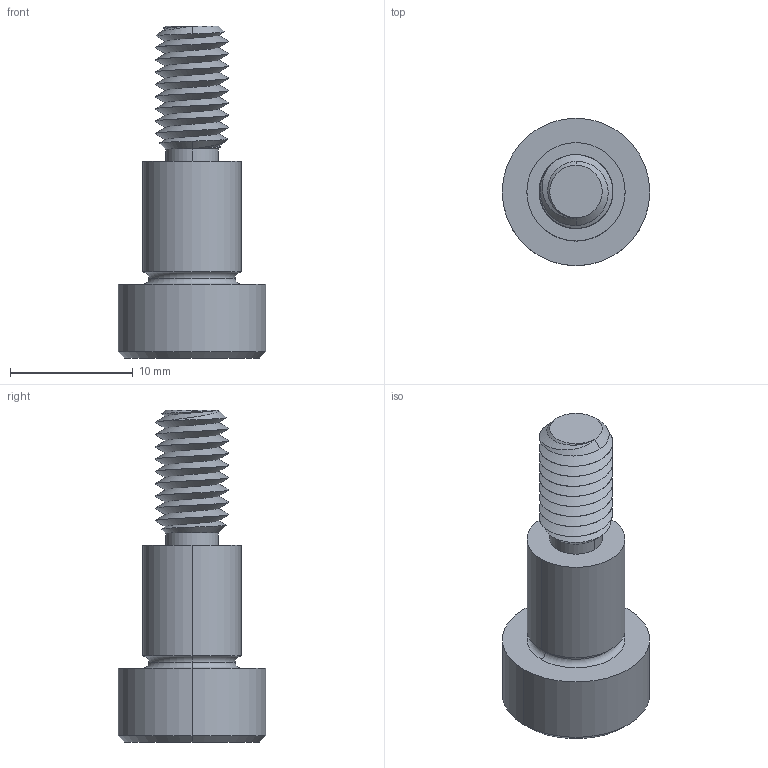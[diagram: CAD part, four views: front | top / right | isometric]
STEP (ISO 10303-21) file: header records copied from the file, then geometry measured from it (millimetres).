
FILE_DESCRIPTION (( 'STEP AP203' ), '1' );
FILE_NAME ('P0130.080-010-B2.step', '2021-11-09T21:35:38', ( '' ), ( '' ), 'SwSTEP 2.0', 'SolidWorks 2019', '' );
FILE_SCHEMA (( 'CONFIG_CONTROL_DESIGN' ));
Length unit declared in the file: millimetre
Products named in the file (1): P0130.080-010-B2
Bounding box: 12 x 12 x 27 mm (x, y, z)
Volume: 1328.4 mm3; surface area: 1084.2 mm2
Topology: 1 solids, 1 shells, 60 faces, 142 edges, 85 vertices
Faces by surface type: cylinder 24, plane 16, cone 14, torus 4, bspline 2
Entity records: 4245 total; most frequent: CARTESIAN_POINT 2899, ORIENTED_EDGE 280, DIRECTION 247, EDGE_CURVE 140, AXIS2_PLACEMENT_3D 99, VERTEX_POINT 85, EDGE_LOOP 63, ADVANCED_FACE 60
